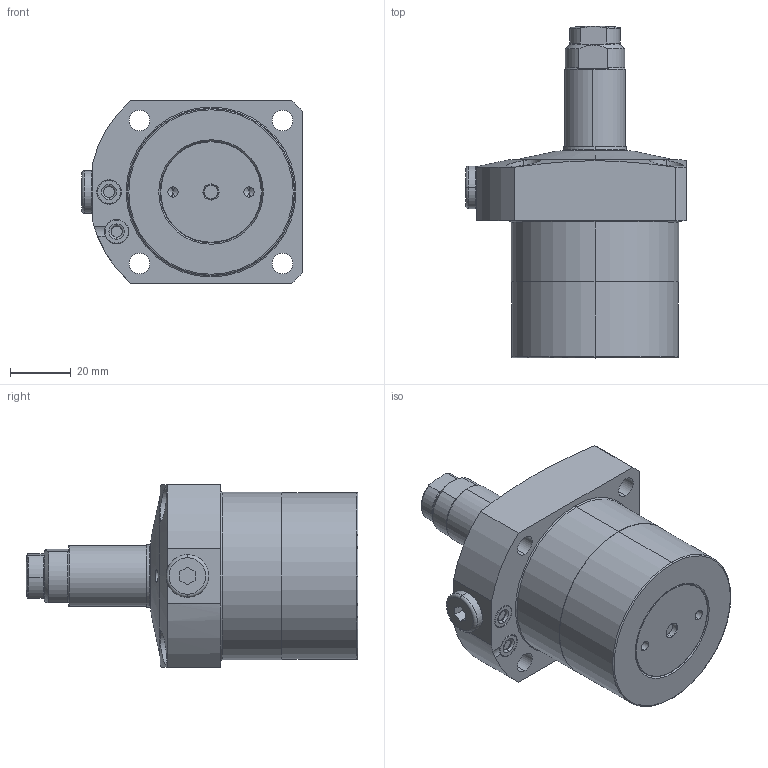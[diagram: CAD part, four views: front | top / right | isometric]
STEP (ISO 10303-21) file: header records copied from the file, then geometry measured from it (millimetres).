
FILE_DESCRIPTION(/* description */ (''),/* implementation_level */ '2;1');
FILE_NAME(/* name */ 'KFSS55-Q.stp',/* time_stamp */ '2026-02-06T10:43:33+08:00',/* author */ (''),/* organization */ (''),/* preprocessor_version */ 'ST-DEVELOPER v16.7',/* originating_system */ 'SIEMENS PLM Software NX 12.0',/* authorisation */ '');
FILE_SCHEMA (('AUTOMOTIVE_DESIGN { 1 0 10303 214 3 1 1 1 }'));
Length unit declared in the file: millimetre
Products named in the file (8): XLC-M12_o-ring5376; XLC-M12_contactbolt5324; KFSS55-Q-02; KFSS55-Q-04; KFSS55-Q-01; KFSS55-Q-05-P5; KFSS55-Q-03; LC0553-C-EQ_step
Assembly tree (8 placements, depth 3):
  LC0553-C-EQ_step
    KFSS55-Q-05-P5  x2
    KFSS55-Q-01
    KFSS55-Q-04
    KFSS55-Q-03
      XLC-M12_contactbolt5324
      XLC-M12_o-ring5376
    KFSS55-Q-02
Bounding box: 72.5 x 109 x 60 mm (x, y, z)
Volume: 186493.3 mm3; surface area: 29541.4 mm2
Topology: 7 solids, 7 shells, 243 faces, 543 edges, 327 vertices
Faces by surface type: cylinder 83, torus 60, plane 53, cone 45, sphere 2
Entity records: 7026 total; most frequent: CARTESIAN_POINT 1457, DIRECTION 1252, ORIENTED_EDGE 1022, AXIS2_PLACEMENT_3D 544, EDGE_CURVE 511, VERTEX_POINT 313, CIRCLE 304, EDGE_LOOP 264
